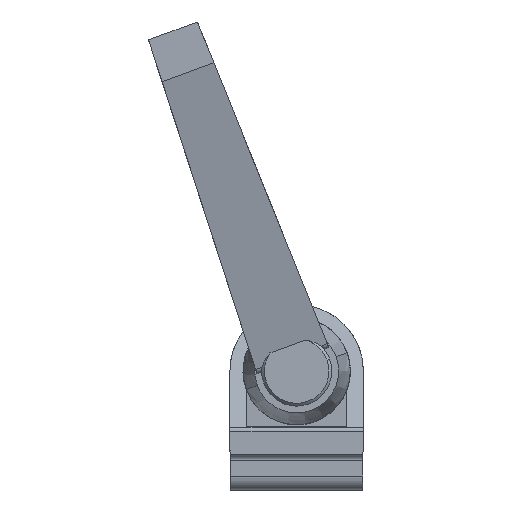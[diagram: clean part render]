
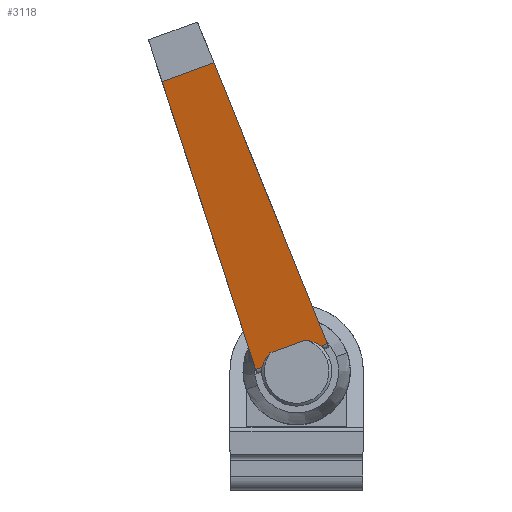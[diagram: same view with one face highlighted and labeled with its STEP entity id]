
A CAD part, top view. The second image highlights one B-rep face of the part: STEP entity #3118.
In plain terms, the highlighted planar face has unit normal (0.082, -0.226, 0.971) as drawn and (-0.971, -0.241, 0) by its records, which use the part's own axes.
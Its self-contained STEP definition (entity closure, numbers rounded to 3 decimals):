
#41 = CARTESIAN_POINT ( 'NONE',  ( 0.482, 2.759, 5.643 ) ) ;
#260 = CARTESIAN_POINT ( 'NONE',  ( 0.283, 3.561, -5.03 ) ) ;
#326 = VECTOR ( 'NONE', #3102, 1000. ) ;
#370 = DIRECTION ( 'NONE',  ( 0., 0., -1. ) ) ;
#461 = VECTOR ( 'NONE', #2782, 1000. ) ;
#463 = VERTEX_POINT ( 'NONE', #3641 ) ;
#468 = DIRECTION ( 'NONE',  ( 0., 0., -1. ) ) ;
#486 = LINE ( 'NONE', #2052, #1165 ) ;
#524 = VECTOR ( 'NONE', #926, 1000. ) ;
#602 = EDGE_CURVE ( 'NONE', #3979, #2202, #3010, .T. ) ;
#620 = EDGE_CURVE ( 'NONE', #3555, #3373, #1480, .T. ) ;
#631 = VECTOR ( 'NONE', #468, 1000. ) ;
#673 = CARTESIAN_POINT ( 'NONE',  ( 0.482, 2.759, 5.643 ) ) ;
#719 = DIRECTION ( 'NONE',  ( 0.971, 0.241, 0. ) ) ;
#777 = CARTESIAN_POINT ( 'NONE',  ( 0., 4.701, -3.398 ) ) ;
#925 = CARTESIAN_POINT ( 'NONE',  ( 0., 4.701, 6.91 ) ) ;
#926 = DIRECTION ( 'NONE',  ( -0.241, 0.97, 0.034 ) ) ;
#968 = CARTESIAN_POINT ( 'NONE',  ( 0., 4.701, 3.398 ) ) ;
#1017 = DIRECTION ( 'NONE',  ( 0., 0., -1. ) ) ;
#1082 = LINE ( 'NONE', #3327, #1889 ) ;
#1165 = VECTOR ( 'NONE', #1800, 1000. ) ;
#1194 = CARTESIAN_POINT ( 'NONE',  ( 0.12, 4.218, -4.27 ) ) ;
#1204 = ORIENTED_EDGE ( 'NONE', *, *, #2792, .F. ) ;
#1220 = CARTESIAN_POINT ( 'NONE',  ( -13., 57.1, -4.951 ) ) ;
#1314 = EDGE_CURVE ( 'NONE', #3979, #463, #486, .T. ) ;
#1375 = CARTESIAN_POINT ( 'NONE',  ( -13., 57.1, 4.951 ) ) ;
#1480 = LINE ( 'NONE', #2768, #326 ) ;
#1526 = EDGE_CURVE ( 'NONE', #3732, #3555, #3453, .T. ) ;
#1556 = CARTESIAN_POINT ( 'NONE',  ( 0.12, 4.218, 4.27 ) ) ;
#1594 = VERTEX_POINT ( 'NONE', #4074 ) ;
#1723 = ORIENTED_EDGE ( 'NONE', *, *, #1314, .F. ) ;
#1800 = DIRECTION ( 'NONE',  ( 0.241, -0.97, 0.034 ) ) ;
#1856 = ORIENTED_EDGE ( 'NONE', *, *, #3944, .F. ) ;
#1873 = EDGE_LOOP ( 'NONE', ( #1204, #1856, #1723, #2608, #3223, #3071, #3669, #3153 ) ) ;
#1889 = VECTOR ( 'NONE', #370, 1000. ) ;
#1896 = LINE ( 'NONE', #4128, #524 ) ;
#1957 = CARTESIAN_POINT ( 'NONE',  ( 0.482, 2.759, -5.643 ) ) ;
#2052 = CARTESIAN_POINT ( 'NONE',  ( -12.984, 57.036, 4.953 ) ) ;
#2202 = VERTEX_POINT ( 'NONE', #1220 ) ;
#2217 = CARTESIAN_POINT ( 'NONE',  ( 0.283, 3.561, 5.03 ) ) ;
#2608 = ORIENTED_EDGE ( 'NONE', *, *, #602, .T. ) ;
#2672 = PLANE ( 'NONE',  #3892 ) ;
#2768 = CARTESIAN_POINT ( 'NONE',  ( 0.482, 2.759, 6.91 ) ) ;
#2782 = DIRECTION ( 'NONE',  ( 0., 0., -1. ) ) ;
#2792 = EDGE_CURVE ( 'NONE', #2845, #1594, #3985, .T. ) ;
#2845 = VERTEX_POINT ( 'NONE', #673 ) ;
#2858 = EDGE_CURVE ( 'NONE', #3373, #2202, #1896, .T. ) ;
#3010 = LINE ( 'NONE', #3428, #631 ) ;
#3071 = ORIENTED_EDGE ( 'NONE', *, *, #620, .F. ) ;
#3102 = DIRECTION ( 'NONE',  ( 0., 0., -1. ) ) ;
#3118 = ADVANCED_FACE ( 'NONE', ( #3613 ), #2672, .F. ) ;
#3153 = ORIENTED_EDGE ( 'NONE', *, *, #3316, .F. ) ;
#3178 = LINE ( 'NONE', #925, #461 ) ;
#3223 = ORIENTED_EDGE ( 'NONE', *, *, #2858, .F. ) ;
#3227 = CARTESIAN_POINT ( 'NONE',  ( -13., 57.1, 6.91 ) ) ;
#3316 = EDGE_CURVE ( 'NONE', #1594, #3732, #3178, .T. ) ;
#3327 = CARTESIAN_POINT ( 'NONE',  ( 0.482, 2.759, 6.91 ) ) ;
#3373 = VERTEX_POINT ( 'NONE', #4140 ) ;
#3428 = CARTESIAN_POINT ( 'NONE',  ( -13., 57.1, 6.91 ) ) ;
#3453 =( BOUNDED_CURVE ( )  B_SPLINE_CURVE ( 3, ( #3758, #1194, #260, #4108 ),
 .UNSPECIFIED., .F., .F. ) 
 B_SPLINE_CURVE_WITH_KNOTS ( ( 4, 4 ),
 ( 3.634, 4.044 ),
 .UNSPECIFIED. ) 
 CURVE ( )  GEOMETRIC_REPRESENTATION_ITEM ( )  RATIONAL_B_SPLINE_CURVE ( ( 1., 0.986, 0.986, 1. ) ) 
 REPRESENTATION_ITEM ( '' )  );
#3555 = VERTEX_POINT ( 'NONE', #1957 ) ;
#3613 = FACE_OUTER_BOUND ( 'NONE', #1873, .T. ) ;
#3641 = CARTESIAN_POINT ( 'NONE',  ( 0.482, 2.759, 6.849 ) ) ;
#3669 = ORIENTED_EDGE ( 'NONE', *, *, #1526, .F. ) ;
#3732 = VERTEX_POINT ( 'NONE', #777 ) ;
#3758 = CARTESIAN_POINT ( 'NONE',  ( 0., 4.701, -3.398 ) ) ;
#3892 = AXIS2_PLACEMENT_3D ( 'NONE', #3227, #719, #1017 ) ;
#3944 = EDGE_CURVE ( 'NONE', #463, #2845, #1082, .T. ) ;
#3979 = VERTEX_POINT ( 'NONE', #1375 ) ;
#3985 =( BOUNDED_CURVE ( )  B_SPLINE_CURVE ( 3, ( #41, #2217, #1556, #968 ),
 .UNSPECIFIED., .F., .F. ) 
 B_SPLINE_CURVE_WITH_KNOTS ( ( 4, 4 ),
 ( 2.239, 2.649 ),
 .UNSPECIFIED. ) 
 CURVE ( )  GEOMETRIC_REPRESENTATION_ITEM ( )  RATIONAL_B_SPLINE_CURVE ( ( 1., 0.986, 0.986, 1. ) ) 
 REPRESENTATION_ITEM ( '' )  );
#4074 = CARTESIAN_POINT ( 'NONE',  ( 0., 4.701, 3.398 ) ) ;
#4108 = CARTESIAN_POINT ( 'NONE',  ( 0.482, 2.759, -5.643 ) ) ;
#4128 = CARTESIAN_POINT ( 'NONE',  ( -13.097, 57.49, -4.937 ) ) ;
#4140 = CARTESIAN_POINT ( 'NONE',  ( 0.482, 2.759, -6.849 ) ) ;
